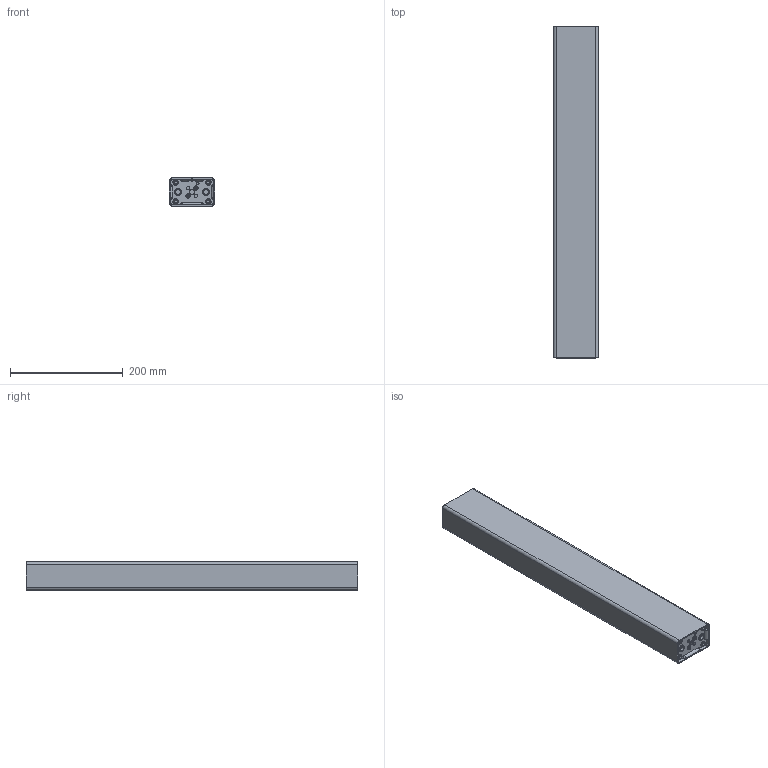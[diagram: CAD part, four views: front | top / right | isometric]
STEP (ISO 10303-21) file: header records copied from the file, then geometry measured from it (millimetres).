
FILE_DESCRIPTION((''),'2;1');
FILE_NAME('1041W7909-A-05-2_AF1','2020-08-21T08:36:25',('mbes'),(''),'CREO PARAMETRIC BY PTC INC, 2019344','CREO PARAMETRIC BY PTC INC, 2019344','');
FILE_SCHEMA(('AUTOMOTIVE_DESIGN { 1 0 10303 214 1 1 1 1 }'));
Length unit declared in the file: millimetre
Products named in the file (1): 1041W7909-A-05-2_AF1
Bounding box: 80 x 590 x 50 mm (x, y, z)
Volume: 2324723.7 mm3; surface area: 161367.5 mm2
Topology: 1 solids, 3 shells, 339 faces, 897 edges, 580 vertices
Faces by surface type: cylinder 160, plane 129, torus 36, bspline 14
Entity records: 11252 total; most frequent: CARTESIAN_POINT 2417, DIRECTION 1937, ORIENTED_EDGE 1794, EDGE_CURVE 897, AXIS2_PLACEMENT_3D 734, VERTEX_POINT 580, VECTOR 469, LINE 469
